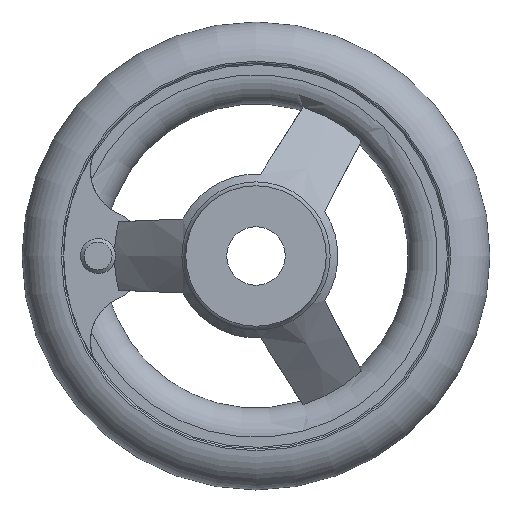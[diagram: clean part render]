
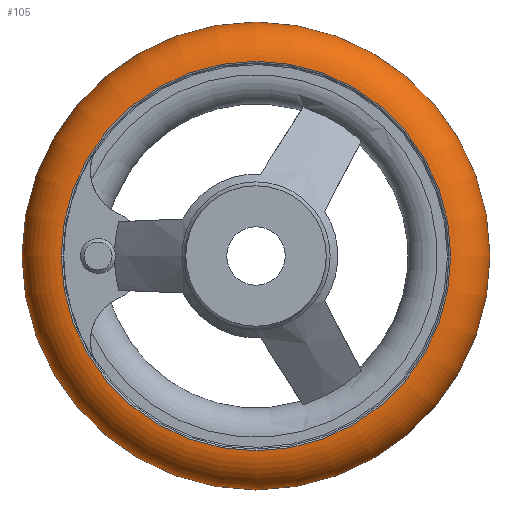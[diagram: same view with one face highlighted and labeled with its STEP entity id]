
A CAD part, left-side view. The second image highlights one B-rep face of the part: STEP entity #105.
In plain terms, the highlighted toroidal (fillet/blend) face has major radius 32.994 mm and minor radius 7.006 mm.
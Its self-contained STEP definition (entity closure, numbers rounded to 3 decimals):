
#105 = ADVANCED_FACE( '', ( #193, #194, #195 ), #196, .T. );
#193 = FACE_BOUND( '', #305, .T. );
#194 = FACE_OUTER_BOUND( '', #306, .T. );
#195 = FACE_OUTER_BOUND( '', #307, .T. );
#196 = TOROIDAL_SURFACE( '', #308, 32.994, 7.006 );
#305 = VERTEX_LOOP( '', #624 );
#306 = EDGE_LOOP( '', ( #625 ) );
#307 = EDGE_LOOP( '', ( #626 ) );
#308 = AXIS2_PLACEMENT_3D( '', #627, #628, #629 );
#624 = VERTEX_POINT( '', #781 );
#625 = ORIENTED_EDGE( '', *, *, #782, .T. );
#626 = ORIENTED_EDGE( '', *, *, #783, .F. );
#627 = CARTESIAN_POINT( '', ( 22., 0., 0. ) );
#628 = DIRECTION( '', ( 1., 0., 0. ) );
#629 = DIRECTION( '', ( 0., 1., 0. ) );
#781 = CARTESIAN_POINT( '', ( 22., 40., 0. ) );
#782 = EDGE_CURVE( '', #939, #939, #940, .T. );
#783 = EDGE_CURVE( '', #941, #941, #942, .T. );
#939 = VERTEX_POINT( '', #1413 );
#940 = CIRCLE( '', #1414, 33.292 );
#941 = VERTEX_POINT( '', #1415 );
#942 = CIRCLE( '', #1416, 33.292 );
#1413 = CARTESIAN_POINT( '', ( 15., 33.292, 0. ) );
#1414 = AXIS2_PLACEMENT_3D( '', #1578, #1579, #1580 );
#1415 = CARTESIAN_POINT( '', ( 29., 33.292, 0. ) );
#1416 = AXIS2_PLACEMENT_3D( '', #1581, #1582, #1583 );
#1578 = CARTESIAN_POINT( '', ( 15., 0., 0. ) );
#1579 = DIRECTION( '', ( 1., 0., 0. ) );
#1580 = DIRECTION( '', ( 0., 1., 0. ) );
#1581 = CARTESIAN_POINT( '', ( 29., 0., 0. ) );
#1582 = DIRECTION( '', ( 1., 0., 0. ) );
#1583 = DIRECTION( '', ( 0., 1., 0. ) );
